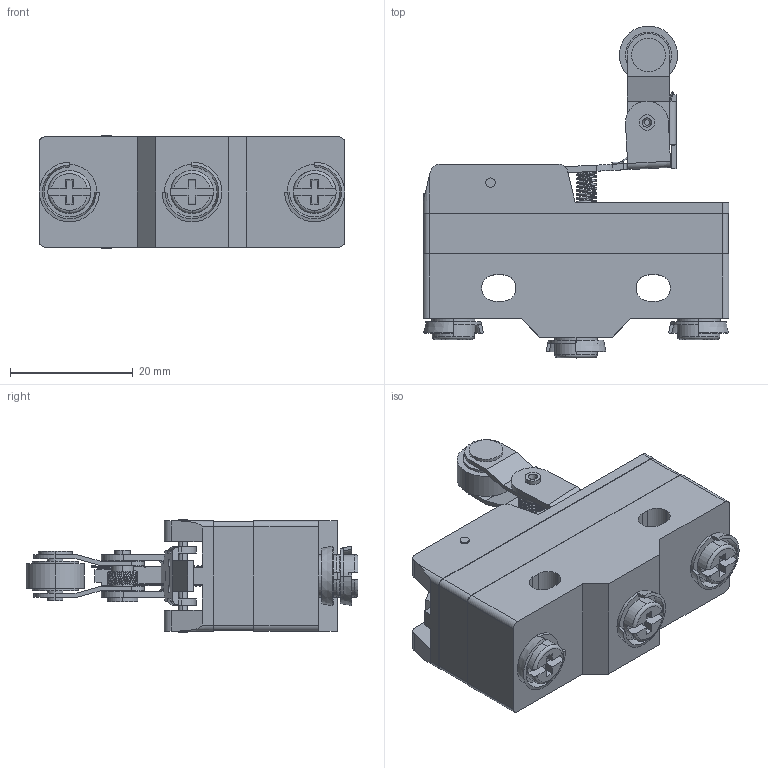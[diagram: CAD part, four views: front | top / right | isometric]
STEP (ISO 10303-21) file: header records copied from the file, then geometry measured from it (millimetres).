
FILE_DESCRIPTION (( 'STEP AP203' ), '1' );
FILE_NAME ('FM1743.STEP', '2018-06-01T16:53:15', ( '' ), ( '' ), 'SwSTEP 2.0', 'SolidWorks 2012', '' );
FILE_SCHEMA (( 'CONFIG_CONTROL_DESIGN' ));
Length unit declared in the file: millimetre
Products named in the file (1): FM1743
Bounding box: 49.9 x 54.15 x 18.5 mm (x, y, z)
Volume: 19173 mm3; surface area: 9144.1 mm2
Topology: 7 solids, 7 shells, 351 faces, 912 edges, 594 vertices
Faces by surface type: plane 190, cylinder 117, cone 19, bspline 16, torus 9
Entity records: 15619 total; most frequent: CARTESIAN_POINT 6779, DIRECTION 1847, ORIENTED_EDGE 1824, EDGE_CURVE 912, AXIS2_PLACEMENT_3D 643, VERTEX_POINT 594, VECTOR 561, LINE 561
